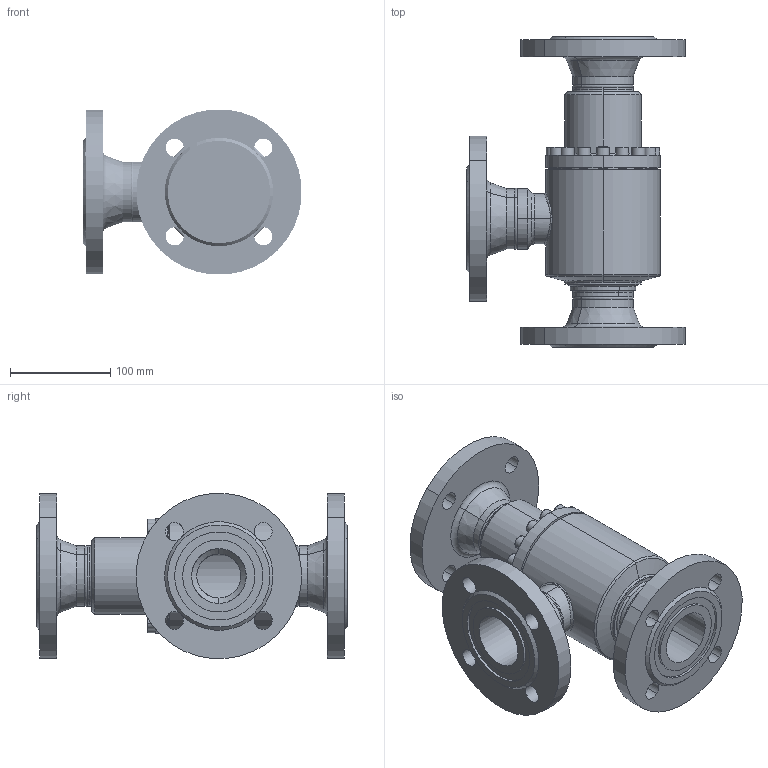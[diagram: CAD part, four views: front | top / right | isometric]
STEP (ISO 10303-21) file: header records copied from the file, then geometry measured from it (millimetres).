
FILE_DESCRIPTION (( 'STEP AP214' ), '1' );
FILE_NAME ('TR47020C15-DN50_DIN_PS40.STEP', '2005-08-10T11:31:54', ( 'Herr Grams' ), ( 'AWP GmbH' ), 'SwSTEP 2.0', 'SolidWorks 2002296', '' );
FILE_SCHEMA (( 'AUTOMOTIVE_DESIGN' ));
Length unit declared in the file: millimetre
Products named in the file (15): TR47020C15-DN50_DIN_PS40; Flansch-DIN-Nut_PS40_DIN-Flansch-DN050_PS40-Nut; TR47000C15-DN50_R1_PS40_Standard; Geh-kpl47000E15-DN50_PS40_R1_Standard; RohrstutzA47000E15-DN50_PS40_R1_Standard; Stutzenteil47000E15_DN50_PS40_R1_Standard; Geh47000E15_DN50_PS40_R1_Standard; Kehlnaht15-2_Standard; bead15-3_Standard; Führungsring47050-15-DN50_Standard; Deckel47000E15_DN50_PS40_R1_Standard; Zylinderschraube-DIN912-M 8x25_M 8x 25; TR50-2_Standard; TR50-1_Standard; TR50-3_Standard
Assembly tree (31 placements, depth 4):
  TR47020C15-DN50_DIN_PS40
    TR50-2_Standard
    Flansch-DIN-Nut_PS40_DIN-Flansch-DN050_PS40-Nut  x3
    TR50-1_Standard
    TR47000C15-DN50_R1_PS40_Standard
      Zylinderschraube-DIN912-M 8x25_M 8x 25  x16
      Geh-kpl47000E15-DN50_PS40_R1_Standard
        Geh47000E15_DN50_PS40_R1_Standard
        RohrstutzA47000E15-DN50_PS40_R1_Standard
        bead15-3_Standard
        Stutzenteil47000E15_DN50_PS40_R1_Standard
        Kehlnaht15-2_Standard
      Deckel47000E15_DN50_PS40_R1_Standard
      Führungsring47050-15-DN50_Standard
    TR50-3_Standard
Bounding box: 218.19 x 309.5 x 164.37 mm (x, y, z)
Volume: 1883006.9 mm3; surface area: 406892.8 mm2
Topology: 29 solids, 29 shells, 1221 faces, 3254 edges, 2128 vertices
Faces by surface type: cylinder 814, plane 221, cone 86, torus 54, bspline 46
Entity records: 28047 total; most frequent: CARTESIAN_POINT 20370, ORIENTED_EDGE 1366, DIRECTION 1365, EDGE_CURVE 683, AXIS2_PLACEMENT_3D 574, VERTEX_POINT 438, EDGE_LOOP 357, CIRCLE 278
